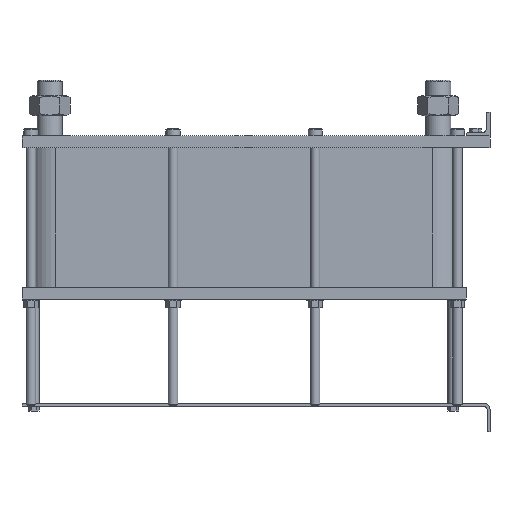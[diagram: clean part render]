
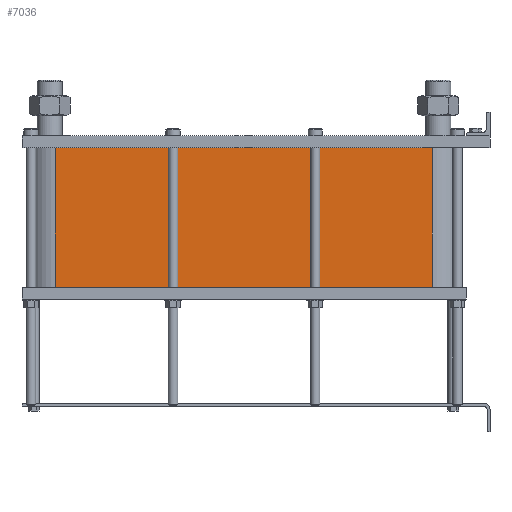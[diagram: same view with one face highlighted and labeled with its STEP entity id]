
A CAD part, left-side view. The second image highlights one B-rep face of the part: STEP entity #7036.
In plain terms, the highlighted planar face has unit normal (-1, 0, 0).
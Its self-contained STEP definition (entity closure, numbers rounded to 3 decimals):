
#999=LINE('',#15640,#1553);
#1031=LINE('',#15723,#1585);
#1032=LINE('',#15726,#1586);
#1033=LINE('',#15727,#1587);
#1553=VECTOR('',#9658,10.);
#1585=VECTOR('',#9736,10.);
#1586=VECTOR('',#9741,10.);
#1587=VECTOR('',#9742,10.);
#2117=FACE_OUTER_BOUND('',#2671,.T.);
#2671=EDGE_LOOP('',(#6246,#6247,#6248,#6249));
#3527=VERTEX_POINT('',#15634);
#3529=VERTEX_POINT('',#15638);
#3556=VERTEX_POINT('',#15720);
#3557=VERTEX_POINT('',#15722);
#4425=EDGE_CURVE('',#3529,#3527,#999,.T.);
#4466=EDGE_CURVE('',#3557,#3556,#1031,.T.);
#4468=EDGE_CURVE('',#3527,#3556,#1032,.T.);
#4469=EDGE_CURVE('',#3557,#3529,#1033,.T.);
#6246=ORIENTED_EDGE('',*,*,#4468,.F.);
#6247=ORIENTED_EDGE('',*,*,#4425,.F.);
#6248=ORIENTED_EDGE('',*,*,#4469,.F.);
#6249=ORIENTED_EDGE('',*,*,#4466,.T.);
#6608=PLANE('',#7812);
#7036=ADVANCED_FACE('',(#2117),#6608,.T.);
#7812=AXIS2_PLACEMENT_3D('',#15725,#9739,#9740);
#9658=DIRECTION('',(0.,0.,-1.));
#9736=DIRECTION('',(0.,0.,-1.));
#9739=DIRECTION('center_axis',(-1.,0.,0.));
#9740=DIRECTION('ref_axis',(0.,1.,0.));
#9741=DIRECTION('',(0.,1.,0.));
#9742=DIRECTION('',(0.,-1.,0.));
#15634=CARTESIAN_POINT('',(-72.,97.5,-235.6));
#15638=CARTESIAN_POINT('',(-72.,97.5,0.));
#15640=CARTESIAN_POINT('',(-72.,97.5,0.));
#15720=CARTESIAN_POINT('',(-72.,733.5,-235.6));
#15722=CARTESIAN_POINT('',(-72.,733.5,0.));
#15723=CARTESIAN_POINT('',(-72.,733.5,0.));
#15725=CARTESIAN_POINT('Origin',(-72.,97.5,0.));
#15726=CARTESIAN_POINT('',(-72.,256.5,-235.6));
#15727=CARTESIAN_POINT('',(-72.,733.5,0.));
